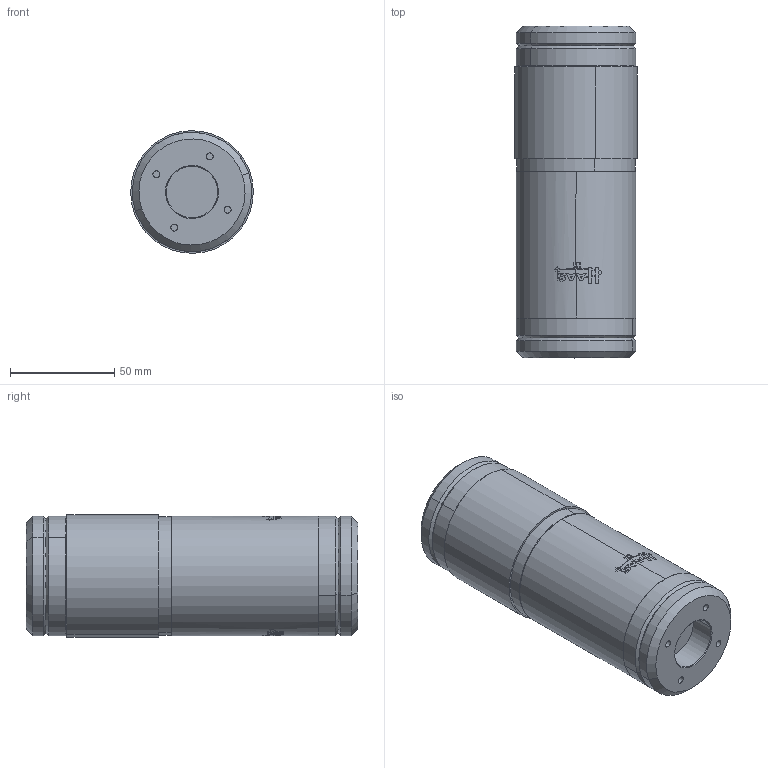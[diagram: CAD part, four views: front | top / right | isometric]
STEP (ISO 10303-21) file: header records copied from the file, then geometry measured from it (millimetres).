
FILE_DESCRIPTION (( 'STEP AP214' ), '1' );
FILE_NAME ('BEC-19-2.0-10.6.STEP', '2016-06-23T17:44:59', ( '' ), ( '' ), 'SwSTEP 2.0', 'SolidWorks 2016', '' );
FILE_SCHEMA (( 'AUTOMOTIVE_DESIGN' ));
Length unit declared in the file: inch
Products named in the file (1): BEC-19-2.0-10.6
Bounding box: 58.73 x 158.88 x 58.73 mm (x, y, z)
Volume: 397991.1 mm3; surface area: 41662 mm2
Topology: 2 solids, 2 shells, 93 faces, 338 edges, 276 vertices
Faces by surface type: cylinder 56, cone 20, plane 17
Entity records: 4289 total; most frequent: CARTESIAN_POINT 1308, ORIENTED_EDGE 676, DIRECTION 574, EDGE_CURVE 338, VERTEX_POINT 276, AXIS2_PLACEMENT_3D 232, CIRCLE 138, EDGE_LOOP 120
